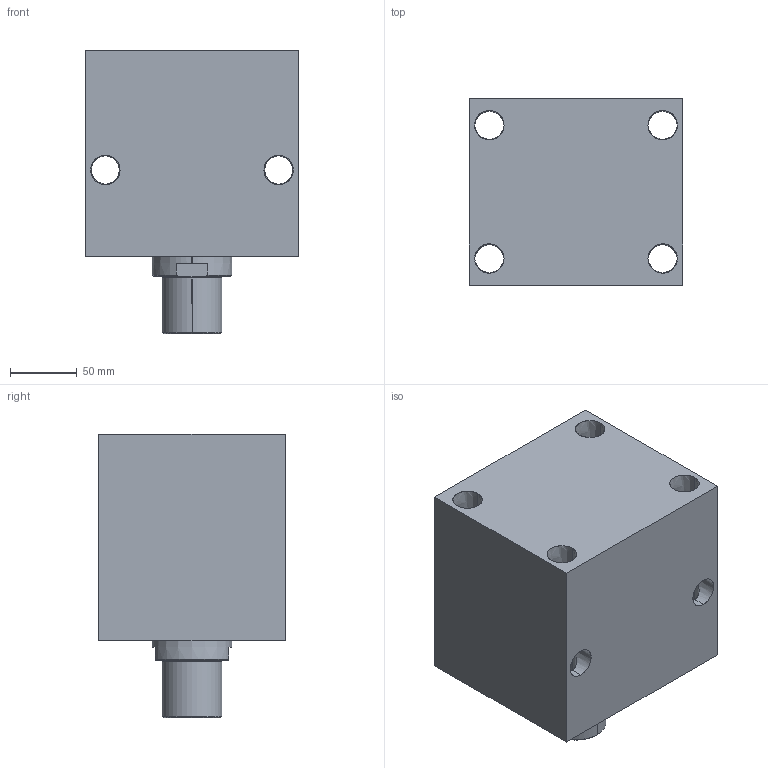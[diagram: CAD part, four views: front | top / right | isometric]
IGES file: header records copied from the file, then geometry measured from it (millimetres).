
Start section: SolidWorks IGES file using analytic representation for surfaces
Global section: file name: D:\karuppas\Clasp\3D model\Block cylinder B01C-Male thread - Copy\B01C-975M\Block cylinder B01C-975M.IGS; native system: SolidWorks 2017; preprocessor: SolidWorks 2017; author: pc; date: 220709.235217; units: millimetre
Bounding box: 160 x 140 x 213 mm (x, y, z)
Surface area: 242409 mm2 (no closed solid volume)
Topology: 0 solids, 0 shells, 352 faces, 5463 edges, 5459 vertices
Faces by surface type: bspline 298, revolution 54
